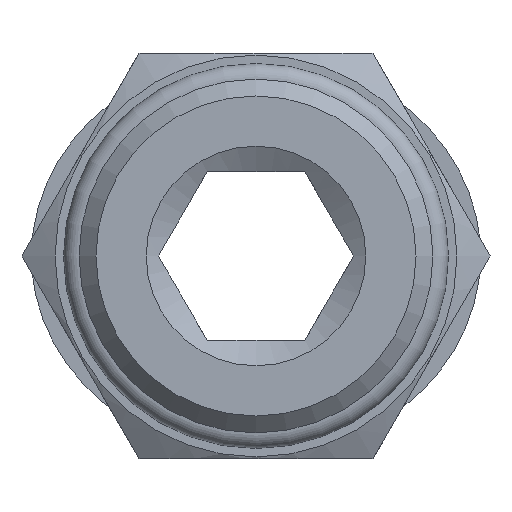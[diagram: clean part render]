
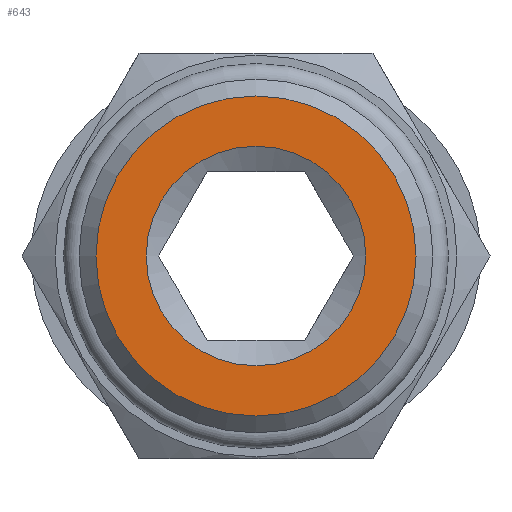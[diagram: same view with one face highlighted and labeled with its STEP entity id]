
A CAD part, front view. The second image highlights one B-rep face of the part: STEP entity #643.
In plain terms, the highlighted planar face has unit normal (0, -1, 0).
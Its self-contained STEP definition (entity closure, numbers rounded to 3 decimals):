
#47=FACE_BOUND('',#197,.T.);
#58=PLANE('',#718);
#157=FACE_OUTER_BOUND('',#196,.T.);
#196=EDGE_LOOP('',(#470));
#197=EDGE_LOOP('',(#471,#472));
#243=CIRCLE('',#712,9.478);
#248=CIRCLE('',#719,6.5);
#249=CIRCLE('',#720,6.5);
#280=VERTEX_POINT('',#989);
#285=VERTEX_POINT('',#1003);
#286=VERTEX_POINT('',#1004);
#352=EDGE_CURVE('',#280,#280,#243,.T.);
#359=EDGE_CURVE('',#285,#286,#248,.T.);
#360=EDGE_CURVE('',#286,#285,#249,.T.);
#470=ORIENTED_EDGE('',*,*,#352,.F.);
#471=ORIENTED_EDGE('',*,*,#359,.F.);
#472=ORIENTED_EDGE('',*,*,#360,.F.);
#643=ADVANCED_FACE('',(#157,#47),#58,.T.);
#712=AXIS2_PLACEMENT_3D('',#990,#812,#813);
#718=AXIS2_PLACEMENT_3D('',#1002,#826,#827);
#719=AXIS2_PLACEMENT_3D('',#1005,#828,#829);
#720=AXIS2_PLACEMENT_3D('',#1006,#830,#831);
#812=DIRECTION('center_axis',(0.,1.,0.));
#813=DIRECTION('ref_axis',(-1.,0.,0.));
#826=DIRECTION('center_axis',(0.,-1.,0.));
#827=DIRECTION('ref_axis',(0.,0.,-1.));
#828=DIRECTION('center_axis',(0.,-1.,0.));
#829=DIRECTION('ref_axis',(1.,0.,0.));
#830=DIRECTION('center_axis',(0.,-1.,0.));
#831=DIRECTION('ref_axis',(1.,0.,0.));
#989=CARTESIAN_POINT('',(9.478,0.,0.));
#990=CARTESIAN_POINT('Origin',(0.,0.,0.));
#1002=CARTESIAN_POINT('Origin',(6.5,0.,0.));
#1003=CARTESIAN_POINT('',(6.5,0.,0.));
#1004=CARTESIAN_POINT('',(-6.5,0.,0.));
#1005=CARTESIAN_POINT('Origin',(0.,0.,0.));
#1006=CARTESIAN_POINT('Origin',(0.,0.,0.));
